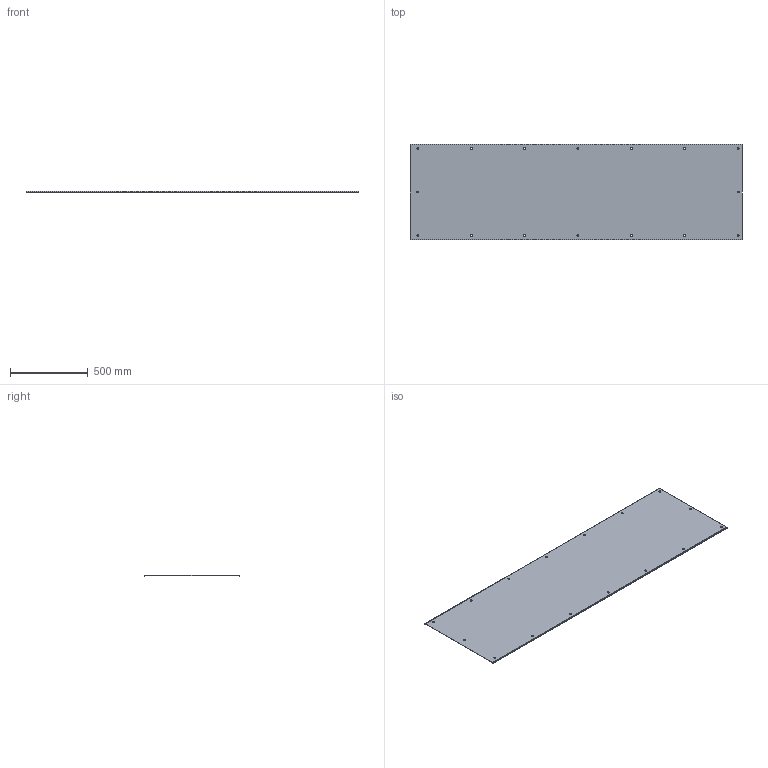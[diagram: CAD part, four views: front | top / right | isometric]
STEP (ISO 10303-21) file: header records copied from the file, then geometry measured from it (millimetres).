
FILE_DESCRIPTION((''),'2;1');
FILE_NAME('SCE-MOD8424FTPT_ASM','2011-08-24T',('joelb'),(''),'PRO/ENGINEER BY PARAMETRIC TECHNOLOGY CORPORATION, 2009230','PRO/ENGINEER BY PARAMETRIC TECHNOLOGY CORPORATION, 2009230','');
FILE_SCHEMA(('AUTOMOTIVE_DESIGN { 1 0 10303 214 1 1 1 1 }'));
Length unit declared in the file: inch
Products named in the file (2): FTPT-END-PLATE; SCE-MOD8424FTPT_ASM
Assembly tree (1 placements, depth 2):
  SCE-MOD8424FTPT_ASM
    FTPT-END-PLATE
Bounding box: 2133.6 x 615.95 x 9.46 mm (x, y, z)
Volume: 2044963.4 mm3; surface area: 2693066.7 mm2
Topology: 1 solids, 1 shells, 58 faces, 152 edges, 96 vertices
Faces by surface type: cylinder 40, plane 18
Entity records: 1959 total; most frequent: DIRECTION 354, CARTESIAN_POINT 312, ORIENTED_EDGE 304, EDGE_CURVE 152, AXIS2_PLACEMENT_3D 141, VERTEX_POINT 96, EDGE_LOOP 90, CIRCLE 80
